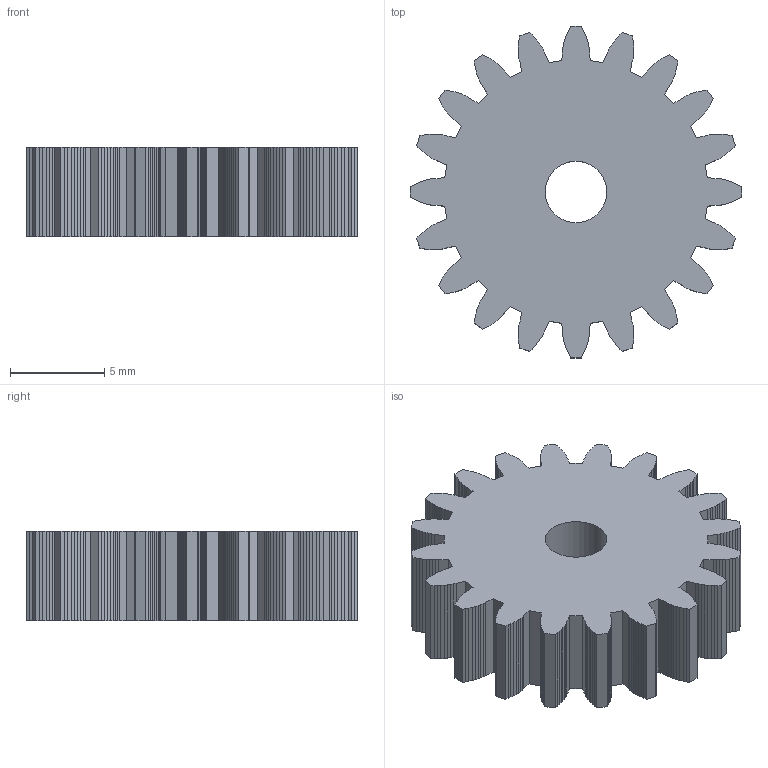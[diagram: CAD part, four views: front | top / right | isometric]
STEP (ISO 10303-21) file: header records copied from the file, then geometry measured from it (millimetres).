
FILE_DESCRIPTION(('Open CASCADE Model'),'2;1');
FILE_NAME('Open CASCADE Shape Model','2026-11-24T20:33:37',('Author'),( 'Open CASCADE'),'Open CASCADE STEP processor 7.8','Open CASCADE 7.8' ,'Unknown');
FILE_SCHEMA(('AUTOMOTIVE_DESIGN { 1 0 10303 214 1 1 1 1 }'));
Length unit declared in the file: millimetre
Products named in the file (1): Open CASCADE STEP translator 7.8 11
Bounding box: 17.59 x 17.59 x 4.75 mm (x, y, z)
Volume: 896.6 mm3; surface area: 908.5 mm2
Topology: 1 solids, 1 shells, 403 faces, 1203 edges, 802 vertices
Faces by surface type: plane 402, cylinder 1
Full cylindrical faces by diameter (mm): 3.26 x1
Entity records: 28912 total; most frequent: CARTESIAN_POINT 4815, DIRECTION 4419, LINE 3605, VECTOR 3605, ORIENTED_EDGE 2406, PCURVE 2406, DEFINITIONAL_REPRESENTATION 2406, EDGE_CURVE 1203
